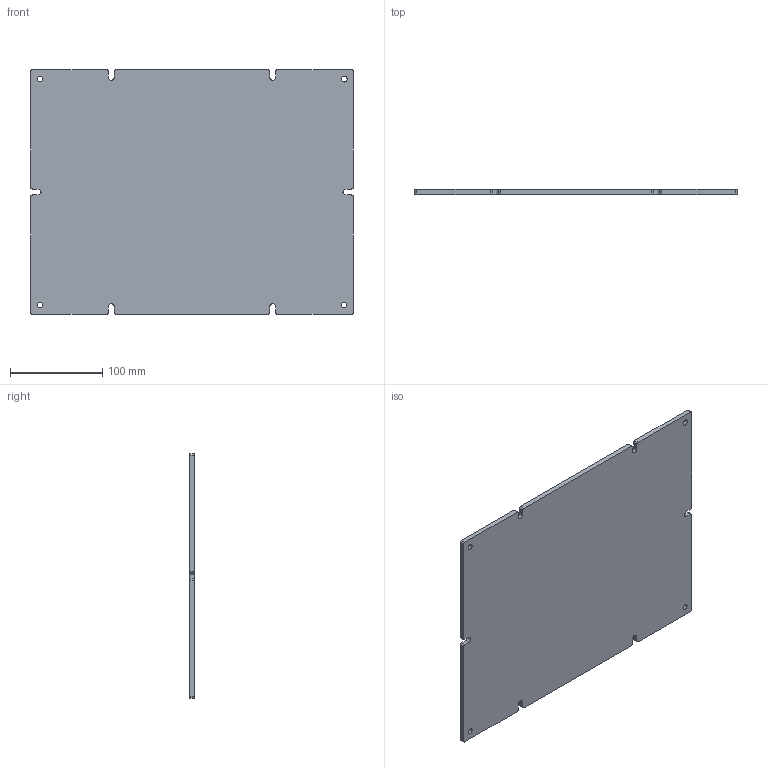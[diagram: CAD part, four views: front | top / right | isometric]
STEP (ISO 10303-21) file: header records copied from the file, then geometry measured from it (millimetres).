
FILE_DESCRIPTION((''),'2;1');
FILE_NAME('M-13-01','2020-06-01T',('Anonym'),(''),'PRO/ENGINEER BY PARAMETRIC TECHNOLOGY CORPORATION, 2012130','PRO/ENGINEER BY PARAMETRIC TECHNOLOGY CORPORATION, 2012130','');
FILE_SCHEMA(('CONFIG_CONTROL_DESIGN'));
Length unit declared in the file: millimetre
Products named in the file (1): M-13-01
Bounding box: 350 x 5 x 265 mm (x, y, z)
Volume: 461019.3 mm3; surface area: 191469.9 mm2
Topology: 1 solids, 1 shells, 54 faces, 156 edges, 104 vertices
Faces by surface type: cylinder 30, plane 24
Entity records: 1854 total; most frequent: DIRECTION 324, CARTESIAN_POINT 314, ORIENTED_EDGE 312, EDGE_CURVE 156, AXIS2_PLACEMENT_3D 114, VERTEX_POINT 104, VECTOR 96, LINE 96
